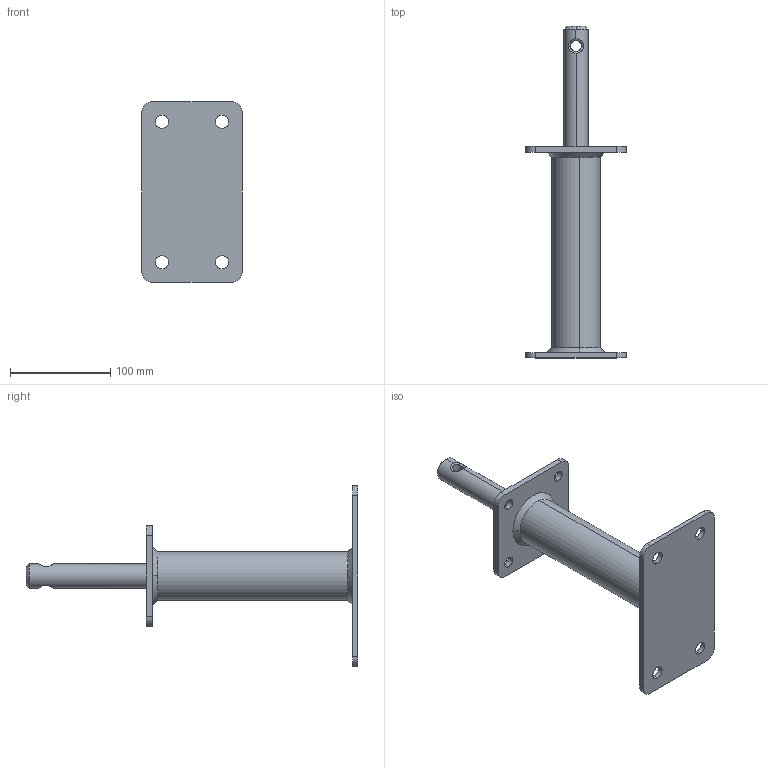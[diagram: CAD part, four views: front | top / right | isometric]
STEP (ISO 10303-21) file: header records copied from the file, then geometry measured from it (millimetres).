
FILE_DESCRIPTION (( 'STEP AP203' ), '1' );
FILE_NAME ('19823200.STEP', '2021-04-19T16:54:42', ( '' ), ( '' ), 'SwSTEP 2.0', 'SolidWorks 2013', '' );
FILE_SCHEMA (( 'CONFIG_CONTROL_DESIGN' ));
Length unit declared in the file: millimetre
Products named in the file (6): 100x100x6-4xd11-1xd21; Schweissnaht-d48mm; 24x120; 19823200; 180x100x5-4xd13-abgerundet; Standrohr-48,3x200x3,25
Assembly tree (6 placements, depth 2):
  19823200
    180x100x5-4xd13-abgerundet
    Schweissnaht-d48mm  x2
    Standrohr-48,3x200x3,25
    100x100x6-4xd11-1xd21
    24x120
Bounding box: 100 x 331 x 180 mm (x, y, z)
Volume: 292156.7 mm3; surface area: 133859.5 mm2
Topology: 6 solids, 6 shells, 64 faces, 160 edges, 104 vertices
Faces by surface type: cylinder 36, plane 18, bspline 8, cone 2
Entity records: 6350 total; most frequent: CARTESIAN_POINT 4228, DIRECTION 314, ORIENTED_EDGE 300, EDGE_CURVE 150, AXIS2_PLACEMENT_3D 126, VERTEX_POINT 98, EDGE_LOOP 78, CIRCLE 64
